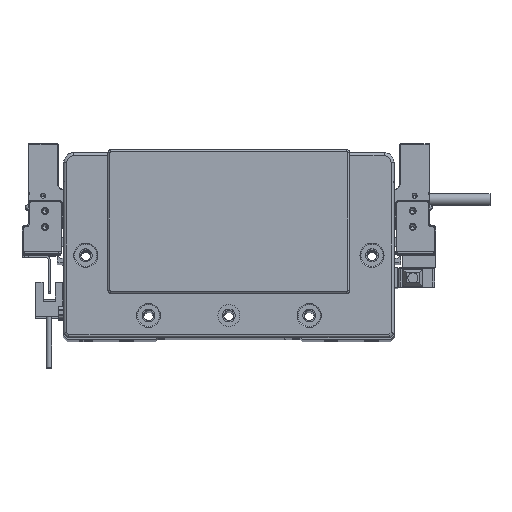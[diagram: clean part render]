
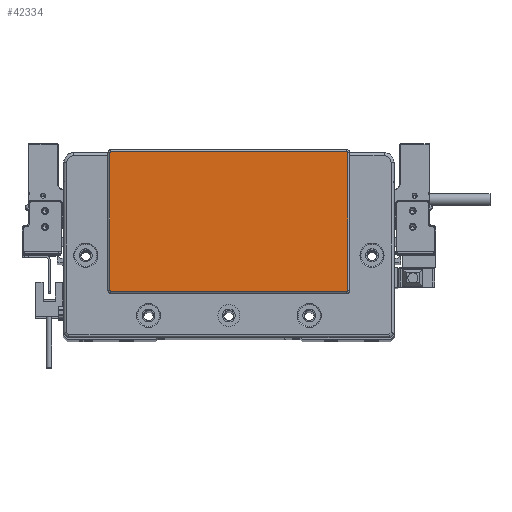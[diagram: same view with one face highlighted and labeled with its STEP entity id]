
A CAD part, top view. The second image highlights one B-rep face of the part: STEP entity #42334.
In plain terms, the highlighted planar face has unit normal (0, 0, 1) as drawn and (0, 0, -1) by its records, which use the part's own axes.
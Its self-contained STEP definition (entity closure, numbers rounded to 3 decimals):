
#214 = AXIS2_PLACEMENT_3D ( 'NONE', #78073, #27282, #33927 ) ;
#4922 = EDGE_CURVE ( 'NONE', #70571, #52633, #11424, .T. ) ;
#5015 = VECTOR ( 'NONE', #5816, 1000. ) ;
#5816 = DIRECTION ( 'NONE',  ( 0., 1., 0. ) ) ;
#8636 = VERTEX_POINT ( 'NONE', #78630 ) ;
#9535 = CARTESIAN_POINT ( 'NONE',  ( 58.75, 45.3, -2. ) ) ;
#11424 = CIRCLE ( 'NONE', #21923, 0.5 ) ;
#13332 = VERTEX_POINT ( 'NONE', #46710 ) ;
#13348 = EDGE_CURVE ( 'NONE', #56124, #57832, #35815, .T. ) ;
#13415 = DIRECTION ( 'NONE',  ( 1., 0., 0. ) ) ;
#16131 = DIRECTION ( 'NONE',  ( 0., 0., -1. ) ) ;
#18489 = ORIENTED_EDGE ( 'NONE', *, *, #13348, .T. ) ;
#18591 = AXIS2_PLACEMENT_3D ( 'NONE', #49754, #30778, #48958 ) ;
#19626 = LINE ( 'NONE', #39024, #38433 ) ;
#19715 = CARTESIAN_POINT ( 'NONE',  ( -58.75, 45.8, -2. ) ) ;
#20839 = DIRECTION ( 'NONE',  ( -1., 0., 0. ) ) ;
#21923 = AXIS2_PLACEMENT_3D ( 'NONE', #9535, #16131, #34699 ) ;
#22348 = ORIENTED_EDGE ( 'NONE', *, *, #41840, .T. ) ;
#23356 = CARTESIAN_POINT ( 'NONE',  ( 58.75, -23.8, -2. ) ) ;
#27282 = DIRECTION ( 'NONE',  ( 0., 0., -1. ) ) ;
#27840 = DIRECTION ( 'NONE',  ( 0., 0., -1. ) ) ;
#28253 = ORIENTED_EDGE ( 'NONE', *, *, #75585, .T. ) ;
#29629 = EDGE_CURVE ( 'NONE', #57832, #36318, #19626, .T. ) ;
#30778 = DIRECTION ( 'NONE',  ( 0., 0., -1. ) ) ;
#32627 = VECTOR ( 'NONE', #13415, 1000. ) ;
#32799 = CARTESIAN_POINT ( 'NONE',  ( 58.75, 45.8, -2. ) ) ;
#33927 = DIRECTION ( 'NONE',  ( -1., 0., 0. ) ) ;
#34699 = DIRECTION ( 'NONE',  ( -1., 0., 0. ) ) ;
#35815 = CIRCLE ( 'NONE', #214, 0.5 ) ;
#36311 = AXIS2_PLACEMENT_3D ( 'NONE', #52211, #27840, #77376 ) ;
#36313 = DIRECTION ( 'NONE',  ( -1., 0., 0. ) ) ;
#36318 = VERTEX_POINT ( 'NONE', #69127 ) ;
#36371 = EDGE_CURVE ( 'NONE', #13332, #68105, #54167, .T. ) ;
#37140 = PLANE ( 'NONE',  #66694 ) ;
#37529 = FACE_OUTER_BOUND ( 'NONE', #78586, .T. ) ;
#38433 = VECTOR ( 'NONE', #20839, 1000. ) ;
#38796 = EDGE_CURVE ( 'NONE', #52633, #56124, #58748, .T. ) ;
#39024 = CARTESIAN_POINT ( 'NONE',  ( -58.75, -23.8, -2. ) ) ;
#41301 = ORIENTED_EDGE ( 'NONE', *, *, #36371, .T. ) ;
#41840 = EDGE_CURVE ( 'NONE', #36318, #8636, #79767, .T. ) ;
#42334 = ADVANCED_FACE ( 'NONE', ( #37529 ), #37140, .T. ) ;
#44119 = DIRECTION ( 'NONE',  ( 0., 0., -1. ) ) ;
#46441 = VECTOR ( 'NONE', #66169, 1000. ) ;
#46710 = CARTESIAN_POINT ( 'NONE',  ( -59.25, 45.3, -2. ) ) ;
#48697 = CARTESIAN_POINT ( 'NONE',  ( 0., 0., -2. ) ) ;
#48958 = DIRECTION ( 'NONE',  ( -1., 0., 0. ) ) ;
#49754 = CARTESIAN_POINT ( 'NONE',  ( -58.75, 45.3, -2. ) ) ;
#52211 = CARTESIAN_POINT ( 'NONE',  ( -58.75, -23.3, -2. ) ) ;
#52633 = VERTEX_POINT ( 'NONE', #77184 ) ;
#54167 = CIRCLE ( 'NONE', #18591, 0.5 ) ;
#56124 = VERTEX_POINT ( 'NONE', #75973 ) ;
#56953 = CARTESIAN_POINT ( 'NONE',  ( -59.25, 45.3, -2. ) ) ;
#57832 = VERTEX_POINT ( 'NONE', #23356 ) ;
#58748 = LINE ( 'NONE', #66561, #46441 ) ;
#58847 = CARTESIAN_POINT ( 'NONE',  ( 58.75, 45.8, -2. ) ) ;
#59665 = ORIENTED_EDGE ( 'NONE', *, *, #75320, .T. ) ;
#64579 = LINE ( 'NONE', #32799, #32627 ) ;
#66169 = DIRECTION ( 'NONE',  ( 0., -1., 0. ) ) ;
#66561 = CARTESIAN_POINT ( 'NONE',  ( 59.25, -23.3, -2. ) ) ;
#66694 = AXIS2_PLACEMENT_3D ( 'NONE', #48697, #44119, #36313 ) ;
#68105 = VERTEX_POINT ( 'NONE', #19715 ) ;
#68807 = ORIENTED_EDGE ( 'NONE', *, *, #29629, .T. ) ;
#69127 = CARTESIAN_POINT ( 'NONE',  ( -58.75, -23.8, -2. ) ) ;
#70571 = VERTEX_POINT ( 'NONE', #58847 ) ;
#74320 = LINE ( 'NONE', #56953, #5015 ) ;
#75320 = EDGE_CURVE ( 'NONE', #68105, #70571, #64579, .T. ) ;
#75585 = EDGE_CURVE ( 'NONE', #8636, #13332, #74320, .T. ) ;
#75973 = CARTESIAN_POINT ( 'NONE',  ( 59.25, -23.3, -2. ) ) ;
#77184 = CARTESIAN_POINT ( 'NONE',  ( 59.25, 45.3, -2. ) ) ;
#77188 = ORIENTED_EDGE ( 'NONE', *, *, #38796, .T. ) ;
#77376 = DIRECTION ( 'NONE',  ( -1., 0., 0. ) ) ;
#78073 = CARTESIAN_POINT ( 'NONE',  ( 58.75, -23.3, -2. ) ) ;
#78586 = EDGE_LOOP ( 'NONE', ( #77188, #18489, #68807, #22348, #28253, #41301, #59665, #79566 ) ) ;
#78630 = CARTESIAN_POINT ( 'NONE',  ( -59.25, -23.3, -2. ) ) ;
#79566 = ORIENTED_EDGE ( 'NONE', *, *, #4922, .T. ) ;
#79767 = CIRCLE ( 'NONE', #36311, 0.5 ) ;
